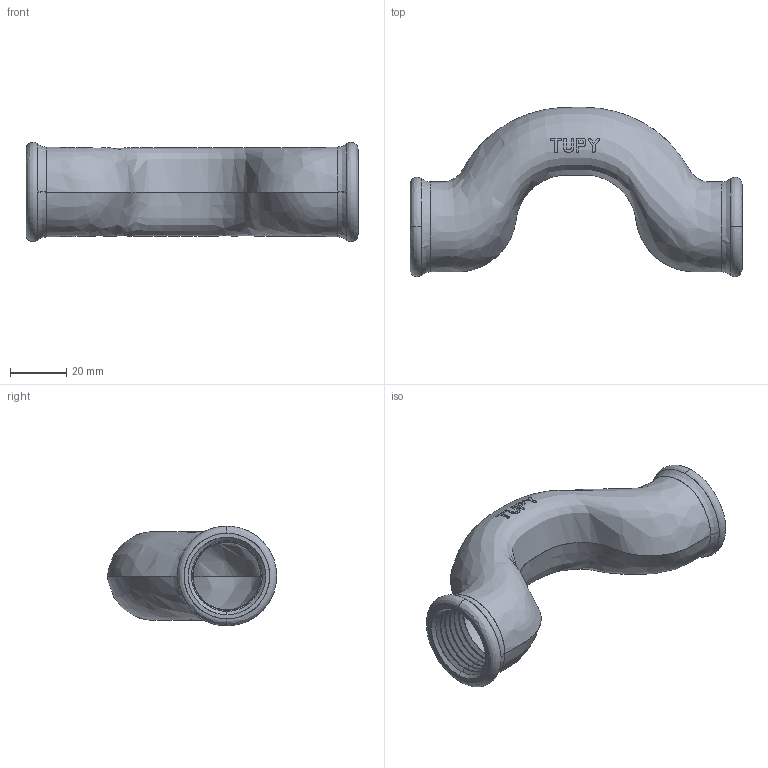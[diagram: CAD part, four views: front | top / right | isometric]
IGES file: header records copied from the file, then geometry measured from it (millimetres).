
Start section: SolidWorks IGES file using analytic representation for surfaces
Global section: file name: C:\Users\Joel Rosa\Desktop\Tubulação\12-28-XXX\12-28-080.IGS; native system: SolidWorks 2011; preprocessor: SolidWorks 2011; author: Joel Rosa; date: 121218.003741; units: millimetre
Bounding box: 118 x 60.21 x 35.4 mm (x, y, z)
Surface area: 26206.5 mm2 (no closed solid volume)
Topology: 0 solids, 0 shells, 258 faces, 3024 edges, 3024 vertices
Faces by surface type: bspline 202, revolution 56
